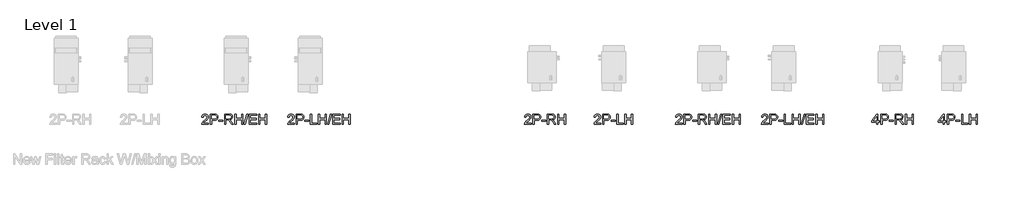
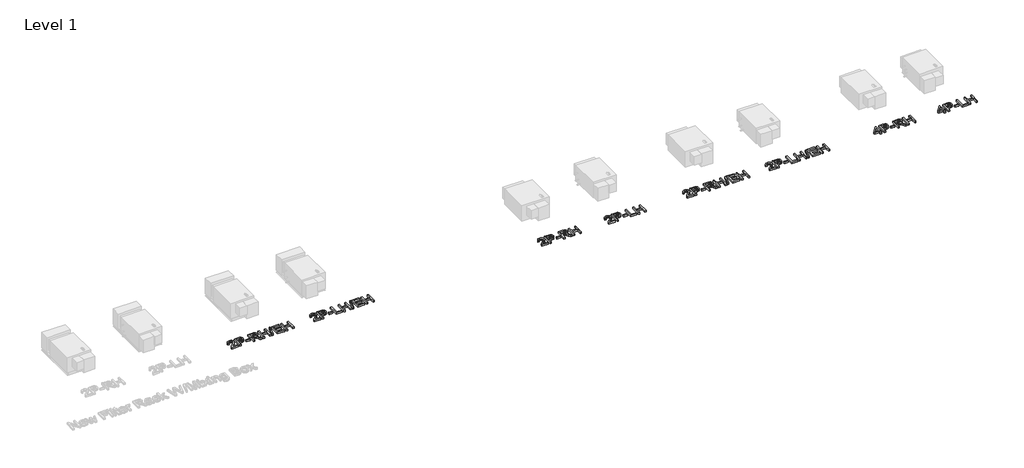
# One storey, part 3 of 3: 8 proxies.
"""IFC4 building model written with IfcOpenShell, lengths in millimetres."""

from ifc_helpers import new_model, si_unit, frame, origin, place, context, project, spatial, polyline, outline, extrude, element, save

model = new_model("IFC4")

# Units and contexts
model_context = context("Model", 3, world=origin())
ifc_project = project(units=[si_unit("LENGTHUNIT", "METRE", prefix="MILLI")], contexts=[model_context])

# Site, building, storey
site = spatial("IfcSite", under=ifc_project)
building = spatial("IfcBuilding", under=site)
storey = spatial("IfcBuildingStorey", under=building, Name="Level 1", Elevation=0.0)

# Proxies
placement = place(None, origin())
element("IfcBuildingElementProxy", 1, Name="24\" Arial", ObjectType="24\" Arial", at=placement, inside=storey, context=model_context, shape_type="SweptSolid", body=[
    extrude(outline(polyline([(-9743.7056134, -12938.2494606), (-9743.7056134, -12866.866548), (-9881.7125779, -12866.866548), (-9881.7125779, -12828.7956612), (-9734.1878917, -12638.4412274), (-9705.6347266, -12638.4412274), (-9705.6347266, -12828.7956612), (-9667.5638398, -12828.7956612), (-9667.5638398, -12866.866548), (-9705.6347266, -12866.866548), (-9705.6347266, -12938.2494606), (-9743.7056134, -12938.2494606)]), holes=[polyline([(-9743.7056134, -12828.7956612), (-9743.7056134, -12711.1625697), (-9834.8675414, -12828.7956612), (-9743.7056134, -12828.7956612)])]), frame((0.0, 0.0, -529.6157415), z_axis=(0.0, 0.0, 1.0), x_axis=(1.0, 0.0, 0.0)), (0.0, 0.0, 1.0), 50.8),
    extrude(outline(polyline([(-9619.9752314, -12938.2494606), (-9619.9752314, -12633.6823666), (-9507.1010007, -12633.6823666), (-9461.5943939, -12636.5822974), (-9441.3041728, -12642.0010784), (-9424.6016866, -12650.8217013), (-9411.1523279, -12663.4438361), (-9400.6214893, -12680.2671528), (-9393.8178055, -12700.1112307), (-9391.5499108, -12721.7956494), (-9393.0812044, -12740.491838), (-9397.6750853, -12757.691588), (-9405.3315533, -12773.3948994), (-9416.0506085, -12787.601772), (-9430.7663632, -12799.3780937), (-9450.4129298, -12807.789752), (-9474.9903083, -12812.836747), (-9504.4984987, -12814.5190787), (-9581.9043446, -12814.5190787), (-9581.9043446, -12938.2494606), (-9619.9752314, -12938.2494606)]), holes=[polyline([(-9581.9043446, -12776.4481919), (-9502.2677827, -12776.4481919), (-9468.5096136, -12772.9534035), (-9446.2024534, -12762.4690382), (-9433.7662115, -12745.6457215), (-9429.6207976, -12723.134079), (-9432.0652906, -12706.0319228), (-9439.3987695, -12691.6066259), (-9450.7103587, -12680.7504746), (-9465.0891823, -12674.3557554), (-9503.1600691, -12671.7532533), (-9581.9043446, -12671.7532533), (-9581.9043446, -12776.4481919)])]), frame((0.0, 0.0, -529.6157415), z_axis=(0.0, 0.0, 1.0), x_axis=(1.0, 0.0, 0.0)), (0.0, 0.0, 1.0), 50.8),
    extrude(outline(polyline([(-9362.9967458, -12847.8311046), (-9362.9967458, -12809.7602178), (-9244.0252247, -12809.7602178), (-9244.0252247, -12847.8311046), (-9362.9967458, -12847.8311046)])), frame((0.0, 0.0, -529.6157415), z_axis=(0.0, 0.0, 1.0), x_axis=(1.0, 0.0, 0.0)), (0.0, 0.0, 1.0), 50.8),
    extrude(outline(polyline([(-9196.4366162, -12938.2494606), (-9196.4366162, -12633.6823666), (-9158.3657294, -12633.6823666), (-9158.3657294, -12900.1785739), (-9006.0821824, -12900.1785739), (-9006.0821824, -12938.2494606), (-9196.4366162, -12938.2494606)])), frame((0.0, 0.0, -529.6157415), z_axis=(0.0, 0.0, 1.0), x_axis=(1.0, 0.0, 0.0)), (0.0, 0.0, 1.0), 50.8),
    extrude(outline(polyline([(-8963.2524348, -12938.2494606), (-8963.2524348, -12633.6823666), (-8925.1815481, -12633.6823666), (-8925.1815481, -12757.4127485), (-8763.3802793, -12757.4127485), (-8763.3802793, -12633.6823666), (-8725.3093926, -12633.6823666), (-8725.3093926, -12938.2494606), (-8763.3802793, -12938.2494606), (-8763.3802793, -12795.4836353), (-8925.1815481, -12795.4836353), (-8925.1815481, -12938.2494606), (-8963.2524348, -12938.2494606)])), frame((0.0, 0.0, -529.6157415), z_axis=(0.0, 0.0, 1.0), x_axis=(1.0, 0.0, 0.0)), (0.0, 0.0, 1.0), 50.8),
])
element("IfcBuildingElementProxy", 2, Name="24\" Arial", ObjectType="24\" Arial", at=placement, inside=storey, context=model_context, shape_type="SweptSolid", body=[
    extrude(outline(polyline([(-11711.222226, -12938.2494606), (-11711.222226, -12866.866548), (-11849.2291905, -12866.866548), (-11849.2291905, -12828.7956612), (-11701.7045043, -12638.4412274), (-11673.1513392, -12638.4412274), (-11673.1513392, -12828.7956612), (-11635.0804525, -12828.7956612), (-11635.0804525, -12866.866548), (-11673.1513392, -12866.866548), (-11673.1513392, -12938.2494606), (-11711.222226, -12938.2494606)]), holes=[polyline([(-11711.222226, -12828.7956612), (-11711.222226, -12711.1625697), (-11802.384154, -12828.7956612), (-11711.222226, -12828.7956612)])]), frame((0.0, 0.0, -529.6157415), z_axis=(0.0, 0.0, 1.0), x_axis=(1.0, 0.0, 0.0)), (0.0, 0.0, 1.0), 50.8),
    extrude(outline(polyline([(-11587.491844, -12938.2494606), (-11587.491844, -12633.6823666), (-11474.6176134, -12633.6823666), (-11429.1110065, -12636.5822974), (-11408.8207854, -12642.0010784), (-11392.1182992, -12650.8217013), (-11378.6689405, -12663.4438361), (-11368.138102, -12680.2671528), (-11361.3344181, -12700.1112307), (-11359.0665235, -12721.7956494), (-11360.5978171, -12740.491838), (-11365.1916979, -12757.691588), (-11372.8481659, -12773.3948994), (-11383.5672211, -12787.601772), (-11398.2829759, -12799.3780937), (-11417.9295425, -12807.789752), (-11442.506921, -12812.836747), (-11472.0151113, -12814.5190787), (-11549.4209573, -12814.5190787), (-11549.4209573, -12938.2494606), (-11587.491844, -12938.2494606)]), holes=[polyline([(-11549.4209573, -12776.4481919), (-11469.7843953, -12776.4481919), (-11436.0262262, -12772.9534035), (-11413.719066, -12762.4690382), (-11401.2828242, -12745.6457215), (-11397.1374102, -12723.134079), (-11399.5819032, -12706.0319228), (-11406.9153821, -12691.6066259), (-11418.2269713, -12680.7504746), (-11432.605795, -12674.3557554), (-11470.6766817, -12671.7532533), (-11549.4209573, -12671.7532533), (-11549.4209573, -12776.4481919)])]), frame((0.0, 0.0, -529.6157415), z_axis=(0.0, 0.0, 1.0), x_axis=(1.0, 0.0, 0.0)), (0.0, 0.0, 1.0), 50.8),
    extrude(outline(polyline([(-11330.5133584, -12847.8311046), (-11330.5133584, -12809.7602178), (-11211.5418373, -12809.7602178), (-11211.5418373, -12847.8311046), (-11330.5133584, -12847.8311046)])), frame((0.0, 0.0, -529.6157415), z_axis=(0.0, 0.0, 1.0), x_axis=(1.0, 0.0, 0.0)), (0.0, 0.0, 1.0), 50.8),
    extrude(outline(polyline([(-11163.9532288, -12938.2494606), (-11163.9532288, -12633.6823666), (-11032.7127696, -12633.6823666), (-10997.4395725, -12635.7364842), (-10971.7770436, -12641.8988372), (-10953.0204397, -12653.275489), (-10938.4650177, -12670.9725027), (-10929.1238944, -12692.9171716), (-10926.0101866, -12717.0367886), (-10931.1687174, -12747.039919), (-10946.6443098, -12771.9124027), (-10958.3671872, -12782.0482186), (-10972.9016963, -12790.1485061), (-11010.4056094, -12800.2424961), (-10988.767664, -12816.5267231), (-10957.9094257, -12855.7129679), (-10907.1234576, -12938.2494606), (-10951.365992, -12938.2494606), (-10990.99838, -12875.1201972), (-11019.6259023, -12833.3314504), (-11039.7395251, -12813.5896137), (-11057.8455034, -12806.3397866), (-11079.929592, -12805.001357), (-11125.8823421, -12805.001357), (-11125.8823421, -12938.2494606), (-11163.9532288, -12938.2494606)]), holes=[polyline([(-11125.8823421, -12766.9304702), (-11040.6689901, -12766.9304702), (-11016.1961764, -12765.582746), (-10997.2072063, -12761.5395732), (-10982.9120344, -12754.531407), (-10972.5206156, -12744.2887026), (-10966.1909589, -12731.898934), (-10964.0810734, -12718.4495754), (-10968.1056568, -12699.8788645), (-10980.1794073, -12684.9144779), (-11000.9529503, -12675.0435595), (-11031.0769112, -12671.7532533), (-11125.8823421, -12671.7532533), (-11125.8823421, -12766.9304702)])]), frame((0.0, 0.0, -529.6157415), z_axis=(0.0, 0.0, 1.0), x_axis=(1.0, 0.0, 0.0)), (0.0, 0.0, 1.0), 50.8),
    extrude(outline(polyline([(-10859.3861348, -12938.2494606), (-10859.3861348, -12633.6823666), (-10821.315248, -12633.6823666), (-10821.315248, -12757.4127485), (-10659.5139793, -12757.4127485), (-10659.5139793, -12633.6823666), (-10621.4430925, -12633.6823666), (-10621.4430925, -12938.2494606), (-10659.5139793, -12938.2494606), (-10659.5139793, -12795.4836353), (-10821.315248, -12795.4836353), (-10821.315248, -12938.2494606), (-10859.3861348, -12938.2494606)])), frame((0.0, 0.0, -529.6157415), z_axis=(0.0, 0.0, 1.0), x_axis=(1.0, 0.0, 0.0)), (0.0, 0.0, 1.0), 50.8),
])
element("IfcBuildingElementProxy", 3, Name="24\" Arial", ObjectType="24\" Arial", at=placement, inside=storey, context=model_context, shape_type="SweptSolid", body=[
    extrude(outline(polyline([(-14920.7636613, -12900.1785739), (-14920.7636613, -12938.2494606), (-15120.6358167, -12938.2494606), (-15116.5461707, -12912.0013688), (-15107.1585741, -12891.488076), (-15093.4210813, -12871.5882302), (-15073.5491194, -12850.7589194), (-15045.7581156, -12827.4572316), (-15004.6757622, -12790.9664353), (-14980.0263502, -12764.0305394), (-14967.7016442, -12742.1695224), (-14963.5934089, -12720.903363), (-14967.4692779, -12701.8400357), (-14979.0968852, -12685.9926573), (-14996.9704973, -12675.3131043), (-15019.584381, -12671.7532533), (-15043.332212, -12675.2294525), (-15061.7820924, -12685.6580499), (-15073.6885391, -12702.2211163), (-15077.8060691, -12724.1007226), (-15115.8769559, -12719.3418618), (-15112.6029154, -12699.6883242), (-15106.6473684, -12682.5164581), (-15098.0103148, -12667.8262637), (-15086.6917546, -12655.6177408), (-15072.9519381, -12646.0210146), (-15057.0511155, -12639.1662101), (-15018.7664518, -12633.6823666), (-14998.3623712, -12635.2066892), (-14980.2029486, -12639.779657), (-14964.2881839, -12647.4012701), (-14950.6180773, -12658.0715284), (-14939.6387719, -12671.0003867), (-14931.7964109, -12685.3977997), (-14927.0909943, -12701.2637674), (-14925.5225221, -12718.5982898), (-14927.2141484, -12736.8065093), (-14932.2890274, -12754.6987107), (-14941.2955433, -12772.8976356), (-14954.7820806, -12792.0260255), (-14976.2806062, -12814.8629807), (-15009.3230873, -12844.1876018), (-15053.1194785, -12880.8085231), (-15070.2959919, -12900.1785739), (-14920.7636613, -12900.1785739)])), frame((0.0, 0.0, -529.6157415), z_axis=(0.0, 0.0, 1.0), x_axis=(1.0, 0.0, 0.0)), (0.0, 0.0, 1.0), 50.8),
    extrude(outline(polyline([(-14868.416192, -12938.2494606), (-14868.416192, -12633.6823666), (-14755.5419613, -12633.6823666), (-14710.0353545, -12636.5822974), (-14689.7451333, -12642.0010784), (-14673.0426471, -12650.8217013), (-14659.5932884, -12663.4438361), (-14649.0624499, -12680.2671528), (-14642.258766, -12700.1112307), (-14639.9908714, -12721.7956494), (-14641.522165, -12740.491838), (-14646.1160458, -12757.691588), (-14653.7725138, -12773.3948994), (-14664.491569, -12787.601772), (-14679.2073238, -12799.3780937), (-14698.8538904, -12807.789752), (-14723.4312689, -12812.836747), (-14752.9394593, -12814.5190787), (-14830.3453052, -12814.5190787), (-14830.3453052, -12938.2494606), (-14868.416192, -12938.2494606)]), holes=[polyline([(-14830.3453052, -12776.4481919), (-14750.7087433, -12776.4481919), (-14716.9505741, -12772.9534035), (-14694.6434139, -12762.4690382), (-14682.2071721, -12745.6457215), (-14678.0617582, -12723.134079), (-14680.5062511, -12706.0319228), (-14687.8397301, -12691.6066259), (-14699.1513192, -12680.7504746), (-14713.5301429, -12674.3557554), (-14751.6010297, -12671.7532533), (-14830.3453052, -12671.7532533), (-14830.3453052, -12776.4481919)])]), frame((0.0, 0.0, -529.6157415), z_axis=(0.0, 0.0, 1.0), x_axis=(1.0, 0.0, 0.0)), (0.0, 0.0, 1.0), 50.8),
    extrude(outline(polyline([(-14611.4377063, -12847.8311046), (-14611.4377063, -12809.7602178), (-14492.4661852, -12809.7602178), (-14492.4661852, -12847.8311046), (-14611.4377063, -12847.8311046)])), frame((0.0, 0.0, -529.6157415), z_axis=(0.0, 0.0, 1.0), x_axis=(1.0, 0.0, 0.0)), (0.0, 0.0, 1.0), 50.8),
    extrude(outline(polyline([(-14444.8775768, -12938.2494606), (-14444.8775768, -12633.6823666), (-14406.80669, -12633.6823666), (-14406.80669, -12900.1785739), (-14254.523143, -12900.1785739), (-14254.523143, -12938.2494606), (-14444.8775768, -12938.2494606)])), frame((0.0, 0.0, -529.6157415), z_axis=(0.0, 0.0, 1.0), x_axis=(1.0, 0.0, 0.0)), (0.0, 0.0, 1.0), 50.8),
    extrude(outline(polyline([(-14211.6933954, -12938.2494606), (-14211.6933954, -12633.6823666), (-14173.6225086, -12633.6823666), (-14173.6225086, -12757.4127485), (-14011.8212399, -12757.4127485), (-14011.8212399, -12633.6823666), (-13973.7503531, -12633.6823666), (-13973.7503531, -12938.2494606), (-14011.8212399, -12938.2494606), (-14011.8212399, -12795.4836353), (-14173.6225086, -12795.4836353), (-14173.6225086, -12938.2494606), (-14211.6933954, -12938.2494606)])), frame((0.0, 0.0, -529.6157415), z_axis=(0.0, 0.0, 1.0), x_axis=(1.0, 0.0, 0.0)), (0.0, 0.0, 1.0), 50.8),
    extrude(outline(polyline([(-13940.4383272, -12938.2494606), (-13854.778832, -12633.6823666), (-13820.4258053, -12633.6823666), (-13906.0853005, -12938.2494606), (-13940.4383272, -12938.2494606)])), frame((0.0, 0.0, -529.6157415), z_axis=(0.0, 0.0, 1.0), x_axis=(1.0, 0.0, 0.0)), (0.0, 0.0, 1.0), 50.8),
    extrude(outline(polyline([(-13788.1547802, -12938.2494606), (-13788.1547802, -12633.6823666), (-13569.2471813, -12633.6823666), (-13569.2471813, -12671.7532533), (-13750.0838934, -12671.7532533), (-13750.0838934, -12762.1716094), (-13578.764903, -12762.1716094), (-13578.764903, -12800.2424961), (-13750.0838934, -12800.2424961), (-13750.0838934, -12900.1785739), (-13564.4883205, -12900.1785739), (-13564.4883205, -12938.2494606), (-13788.1547802, -12938.2494606)])), frame((0.0, 0.0, -529.6157415), z_axis=(0.0, 0.0, 1.0), x_axis=(1.0, 0.0, 0.0)), (0.0, 0.0, 1.0), 50.8),
    extrude(outline(polyline([(-13507.3819903, -12938.2494606), (-13507.3819903, -12633.6823666), (-13469.3111036, -12633.6823666), (-13469.3111036, -12757.4127485), (-13307.5098349, -12757.4127485), (-13307.5098349, -12633.6823666), (-13269.4389481, -12633.6823666), (-13269.4389481, -12938.2494606), (-13307.5098349, -12938.2494606), (-13307.5098349, -12795.4836353), (-13469.3111036, -12795.4836353), (-13469.3111036, -12938.2494606), (-13507.3819903, -12938.2494606)])), frame((0.0, 0.0, -529.6157415), z_axis=(0.0, 0.0, 1.0), x_axis=(1.0, 0.0, 0.0)), (0.0, 0.0, 1.0), 50.8),
])
element("IfcBuildingElementProxy", 4, Name="24\" Arial", ObjectType="24\" Arial", at=placement, inside=storey, context=model_context, shape_type="SweptSolid", body=[
    extrude(outline(polyline([(-17463.9537824, -12900.1785739), (-17463.9537824, -12938.2494606), (-17663.8259379, -12938.2494606), (-17659.7362918, -12912.0013688), (-17650.3486952, -12891.488076), (-17636.6112024, -12871.5882302), (-17616.7392405, -12850.7589194), (-17588.9482368, -12827.4572316), (-17547.8658834, -12790.9664353), (-17523.2164713, -12764.0305394), (-17510.8917653, -12742.1695224), (-17506.78353, -12720.903363), (-17510.6593991, -12701.8400357), (-17522.2870063, -12685.9926573), (-17540.1606185, -12675.3131043), (-17562.7745021, -12671.7532533), (-17586.5223331, -12675.2294525), (-17604.9722135, -12685.6580499), (-17616.8786603, -12702.2211163), (-17620.9961903, -12724.1007226), (-17659.067077, -12719.3418618), (-17655.7930365, -12699.6883242), (-17649.8374895, -12682.5164581), (-17641.2004359, -12667.8262637), (-17629.8818758, -12655.6177408), (-17616.1420593, -12646.0210146), (-17600.2412366, -12639.1662101), (-17561.9565729, -12633.6823666), (-17541.5524923, -12635.2066892), (-17523.3930697, -12639.779657), (-17507.4783051, -12647.4012701), (-17493.8081985, -12658.0715284), (-17482.8288931, -12671.0003867), (-17474.986532, -12685.3977997), (-17470.2811154, -12701.2637674), (-17468.7126432, -12718.5982898), (-17470.4042695, -12736.8065093), (-17475.4791485, -12754.6987107), (-17484.4856644, -12772.8976356), (-17497.9722017, -12792.0260255), (-17519.4707274, -12814.8629807), (-17552.5132084, -12844.1876018), (-17596.3095996, -12880.8085231), (-17613.486113, -12900.1785739), (-17463.9537824, -12900.1785739)])), frame((0.0, 0.0, -529.6157415), z_axis=(0.0, 0.0, 1.0), x_axis=(1.0, 0.0, 0.0)), (0.0, 0.0, 1.0), 50.8),
    extrude(outline(polyline([(-17411.6063131, -12938.2494606), (-17411.6063131, -12633.6823666), (-17298.7320824, -12633.6823666), (-17253.2254756, -12636.5822974), (-17232.9352545, -12642.0010784), (-17216.2327683, -12650.8217013), (-17202.7834096, -12663.4438361), (-17192.252571, -12680.2671528), (-17185.4488872, -12700.1112307), (-17183.1809925, -12721.7956494), (-17184.7122861, -12740.491838), (-17189.306167, -12757.691588), (-17196.962635, -12773.3948994), (-17207.6816902, -12787.601772), (-17222.3974449, -12799.3780937), (-17242.0440115, -12807.789752), (-17266.62139, -12812.836747), (-17296.1295804, -12814.5190787), (-17373.5354263, -12814.5190787), (-17373.5354263, -12938.2494606), (-17411.6063131, -12938.2494606)]), holes=[polyline([(-17373.5354263, -12776.4481919), (-17293.8988644, -12776.4481919), (-17260.1406953, -12772.9534035), (-17237.8335351, -12762.4690382), (-17225.3972932, -12745.6457215), (-17221.2518793, -12723.134079), (-17223.6963723, -12706.0319228), (-17231.0298512, -12691.6066259), (-17242.3414404, -12680.7504746), (-17256.720264, -12674.3557554), (-17294.7911508, -12671.7532533), (-17373.5354263, -12671.7532533), (-17373.5354263, -12776.4481919)])]), frame((0.0, 0.0, -529.6157415), z_axis=(0.0, 0.0, 1.0), x_axis=(1.0, 0.0, 0.0)), (0.0, 0.0, 1.0), 50.8),
    extrude(outline(polyline([(-17154.6278275, -12847.8311046), (-17154.6278275, -12809.7602178), (-17035.6563064, -12809.7602178), (-17035.6563064, -12847.8311046), (-17154.6278275, -12847.8311046)])), frame((0.0, 0.0, -529.6157415), z_axis=(0.0, 0.0, 1.0), x_axis=(1.0, 0.0, 0.0)), (0.0, 0.0, 1.0), 50.8),
    extrude(outline(polyline([(-16988.0676979, -12938.2494606), (-16988.0676979, -12633.6823666), (-16856.8272387, -12633.6823666), (-16821.5540416, -12635.7364842), (-16795.8915127, -12641.8988372), (-16777.1349088, -12653.275489), (-16762.5794868, -12670.9725027), (-16753.2383634, -12692.9171716), (-16750.1246557, -12717.0367886), (-16755.2831865, -12747.039919), (-16770.7587789, -12771.9124027), (-16782.4816563, -12782.0482186), (-16797.0161654, -12790.1485061), (-16834.5200785, -12800.2424961), (-16812.8821331, -12816.5267231), (-16782.0238948, -12855.7129679), (-16731.2379267, -12938.2494606), (-16775.4804611, -12938.2494606), (-16815.1128491, -12875.1201972), (-16843.7403713, -12833.3314504), (-16863.8539941, -12813.5896137), (-16881.9599725, -12806.3397866), (-16904.0440611, -12805.001357), (-16949.9968111, -12805.001357), (-16949.9968111, -12938.2494606), (-16988.0676979, -12938.2494606)]), holes=[polyline([(-16949.9968111, -12766.9304702), (-16864.7834591, -12766.9304702), (-16840.3106455, -12765.582746), (-16821.3216753, -12761.5395732), (-16807.0265035, -12754.531407), (-16796.6350847, -12744.2887026), (-16790.305428, -12731.898934), (-16788.1955424, -12718.4495754), (-16792.2201259, -12699.8788645), (-16804.2938764, -12684.9144779), (-16825.0674193, -12675.0435595), (-16855.1913803, -12671.7532533), (-16949.9968111, -12671.7532533), (-16949.9968111, -12766.9304702)])]), frame((0.0, 0.0, -529.6157415), z_axis=(0.0, 0.0, 1.0), x_axis=(1.0, 0.0, 0.0)), (0.0, 0.0, 1.0), 50.8),
    extrude(outline(polyline([(-16683.5006038, -12938.2494606), (-16683.5006038, -12633.6823666), (-16645.4297171, -12633.6823666), (-16645.4297171, -12757.4127485), (-16483.6284484, -12757.4127485), (-16483.6284484, -12633.6823666), (-16445.5575616, -12633.6823666), (-16445.5575616, -12938.2494606), (-16483.6284484, -12938.2494606), (-16483.6284484, -12795.4836353), (-16645.4297171, -12795.4836353), (-16645.4297171, -12938.2494606), (-16683.5006038, -12938.2494606)])), frame((0.0, 0.0, -529.6157415), z_axis=(0.0, 0.0, 1.0), x_axis=(1.0, 0.0, 0.0)), (0.0, 0.0, 1.0), 50.8),
    extrude(outline(polyline([(-16412.2455357, -12938.2494606), (-16326.5860405, -12633.6823666), (-16292.2330138, -12633.6823666), (-16377.892509, -12938.2494606), (-16412.2455357, -12938.2494606)])), frame((0.0, 0.0, -529.6157415), z_axis=(0.0, 0.0, 1.0), x_axis=(1.0, 0.0, 0.0)), (0.0, 0.0, 1.0), 50.8),
    extrude(outline(polyline([(-16259.9619886, -12938.2494606), (-16259.9619886, -12633.6823666), (-16041.0543898, -12633.6823666), (-16041.0543898, -12671.7532533), (-16221.8911019, -12671.7532533), (-16221.8911019, -12762.1716094), (-16050.5721115, -12762.1716094), (-16050.5721115, -12800.2424961), (-16221.8911019, -12800.2424961), (-16221.8911019, -12900.1785739), (-16036.2955289, -12900.1785739), (-16036.2955289, -12938.2494606), (-16259.9619886, -12938.2494606)])), frame((0.0, 0.0, -529.6157415), z_axis=(0.0, 0.0, 1.0), x_axis=(1.0, 0.0, 0.0)), (0.0, 0.0, 1.0), 50.8),
    extrude(outline(polyline([(-15979.1891988, -12938.2494606), (-15979.1891988, -12633.6823666), (-15941.118312, -12633.6823666), (-15941.118312, -12757.4127485), (-15779.3170433, -12757.4127485), (-15779.3170433, -12633.6823666), (-15741.2461566, -12633.6823666), (-15741.2461566, -12938.2494606), (-15779.3170433, -12938.2494606), (-15779.3170433, -12795.4836353), (-15941.118312, -12795.4836353), (-15941.118312, -12938.2494606), (-15979.1891988, -12938.2494606)])), frame((0.0, 0.0, -529.6157415), z_axis=(0.0, 0.0, 1.0), x_axis=(1.0, 0.0, 0.0)), (0.0, 0.0, 1.0), 50.8),
])
element("IfcBuildingElementProxy", 5, Name="24\" Arial", ObjectType="24\" Arial", at=placement, inside=storey, context=model_context, shape_type="SweptSolid", body=[
    extrude(outline(polyline([(-19873.7636613, -12900.1785739), (-19873.7636613, -12938.2494606), (-20073.6358167, -12938.2494606), (-20069.5461707, -12912.0013688), (-20060.1585741, -12891.488076), (-20046.4210813, -12871.5882302), (-20026.5491194, -12850.7589194), (-19998.7581156, -12827.4572316), (-19957.6757622, -12790.9664353), (-19933.0263502, -12764.0305394), (-19920.7016442, -12742.1695224), (-19916.5934089, -12720.903363), (-19920.4692779, -12701.8400357), (-19932.0968852, -12685.9926573), (-19949.9704973, -12675.3131043), (-19972.584381, -12671.7532533), (-19996.332212, -12675.2294525), (-20014.7820924, -12685.6580499), (-20026.6885391, -12702.2211163), (-20030.8060691, -12724.1007226), (-20068.8769559, -12719.3418618), (-20065.6029154, -12699.6883242), (-20059.6473684, -12682.5164581), (-20051.0103148, -12667.8262637), (-20039.6917546, -12655.6177408), (-20025.9519381, -12646.0210146), (-20010.0511155, -12639.1662101), (-19971.7664518, -12633.6823666), (-19951.3623712, -12635.2066892), (-19933.2029486, -12639.779657), (-19917.2881839, -12647.4012701), (-19903.6180773, -12658.0715284), (-19892.6387719, -12671.0003867), (-19884.7964109, -12685.3977997), (-19880.0909943, -12701.2637674), (-19878.5225221, -12718.5982898), (-19880.2141484, -12736.8065093), (-19885.2890274, -12754.6987107), (-19894.2955433, -12772.8976356), (-19907.7820806, -12792.0260255), (-19929.2806062, -12814.8629807), (-19962.3230873, -12844.1876018), (-20006.1194785, -12880.8085231), (-20023.2959919, -12900.1785739), (-19873.7636613, -12900.1785739)])), frame((0.0, 0.0, -529.6157415), z_axis=(0.0, 0.0, 1.0), x_axis=(1.0, 0.0, 0.0)), (0.0, 0.0, 1.0), 50.8),
    extrude(outline(polyline([(-19821.416192, -12938.2494606), (-19821.416192, -12633.6823666), (-19708.5419613, -12633.6823666), (-19663.0353545, -12636.5822974), (-19642.7451333, -12642.0010784), (-19626.0426471, -12650.8217013), (-19612.5932884, -12663.4438361), (-19602.0624499, -12680.2671528), (-19595.258766, -12700.1112307), (-19592.9908714, -12721.7956494), (-19594.522165, -12740.491838), (-19599.1160458, -12757.691588), (-19606.7725138, -12773.3948994), (-19617.491569, -12787.601772), (-19632.2073238, -12799.3780937), (-19651.8538904, -12807.789752), (-19676.4312689, -12812.836747), (-19705.9394593, -12814.5190787), (-19783.3453052, -12814.5190787), (-19783.3453052, -12938.2494606), (-19821.416192, -12938.2494606)]), holes=[polyline([(-19783.3453052, -12776.4481919), (-19703.7087433, -12776.4481919), (-19669.9505741, -12772.9534035), (-19647.6434139, -12762.4690382), (-19635.2071721, -12745.6457215), (-19631.0617582, -12723.134079), (-19633.5062511, -12706.0319228), (-19640.8397301, -12691.6066259), (-19652.1513192, -12680.7504746), (-19666.5301429, -12674.3557554), (-19704.6010297, -12671.7532533), (-19783.3453052, -12671.7532533), (-19783.3453052, -12776.4481919)])]), frame((0.0, 0.0, -529.6157415), z_axis=(0.0, 0.0, 1.0), x_axis=(1.0, 0.0, 0.0)), (0.0, 0.0, 1.0), 50.8),
    extrude(outline(polyline([(-19564.4377063, -12847.8311046), (-19564.4377063, -12809.7602178), (-19445.4661852, -12809.7602178), (-19445.4661852, -12847.8311046), (-19564.4377063, -12847.8311046)])), frame((0.0, 0.0, -529.6157415), z_axis=(0.0, 0.0, 1.0), x_axis=(1.0, 0.0, 0.0)), (0.0, 0.0, 1.0), 50.8),
    extrude(outline(polyline([(-19397.8775768, -12938.2494606), (-19397.8775768, -12633.6823666), (-19359.80669, -12633.6823666), (-19359.80669, -12900.1785739), (-19207.523143, -12900.1785739), (-19207.523143, -12938.2494606), (-19397.8775768, -12938.2494606)])), frame((0.0, 0.0, -529.6157415), z_axis=(0.0, 0.0, 1.0), x_axis=(1.0, 0.0, 0.0)), (0.0, 0.0, 1.0), 50.8),
    extrude(outline(polyline([(-19164.6933954, -12938.2494606), (-19164.6933954, -12633.6823666), (-19126.6225086, -12633.6823666), (-19126.6225086, -12757.4127485), (-18964.8212399, -12757.4127485), (-18964.8212399, -12633.6823666), (-18926.7503531, -12633.6823666), (-18926.7503531, -12938.2494606), (-18964.8212399, -12938.2494606), (-18964.8212399, -12795.4836353), (-19126.6225086, -12795.4836353), (-19126.6225086, -12938.2494606), (-19164.6933954, -12938.2494606)])), frame((0.0, 0.0, -529.6157415), z_axis=(0.0, 0.0, 1.0), x_axis=(1.0, 0.0, 0.0)), (0.0, 0.0, 1.0), 50.8),
])
element("IfcBuildingElementProxy", 6, Name="24\" Arial", ObjectType="24\" Arial", at=placement, inside=storey, context=model_context, shape_type="SweptSolid", body=[
    extrude(outline(polyline([(-21934.3537824, -12900.1785739), (-21934.3537824, -12938.2494606), (-22134.2259379, -12938.2494606), (-22130.1362918, -12912.0013688), (-22120.7486952, -12891.488076), (-22107.0112024, -12871.5882302), (-22087.1392405, -12850.7589194), (-22059.3482368, -12827.4572316), (-22018.2658834, -12790.9664353), (-21993.6164713, -12764.0305394), (-21981.2917653, -12742.1695224), (-21977.18353, -12720.903363), (-21981.0593991, -12701.8400357), (-21992.6870063, -12685.9926573), (-22010.5606185, -12675.3131043), (-22033.1745021, -12671.7532533), (-22056.9223331, -12675.2294525), (-22075.3722135, -12685.6580499), (-22087.2786603, -12702.2211163), (-22091.3961903, -12724.1007226), (-22129.467077, -12719.3418618), (-22126.1930365, -12699.6883242), (-22120.2374895, -12682.5164581), (-22111.6004359, -12667.8262637), (-22100.2818758, -12655.6177408), (-22086.5420593, -12646.0210146), (-22070.6412366, -12639.1662101), (-22032.3565729, -12633.6823666), (-22011.9524923, -12635.2066892), (-21993.7930697, -12639.779657), (-21977.8783051, -12647.4012701), (-21964.2081985, -12658.0715284), (-21953.2288931, -12671.0003867), (-21945.386532, -12685.3977997), (-21940.6811154, -12701.2637674), (-21939.1126432, -12718.5982898), (-21940.8042695, -12736.8065093), (-21945.8791485, -12754.6987107), (-21954.8856644, -12772.8976356), (-21968.3722017, -12792.0260255), (-21989.8707274, -12814.8629807), (-22022.9132084, -12844.1876018), (-22066.7095996, -12880.8085231), (-22083.886113, -12900.1785739), (-21934.3537824, -12900.1785739)])), frame((0.0, 0.0, -529.6157415), z_axis=(0.0, 0.0, 1.0), x_axis=(1.0, 0.0, 0.0)), (0.0, 0.0, 1.0), 50.8),
    extrude(outline(polyline([(-21882.0063131, -12938.2494606), (-21882.0063131, -12633.6823666), (-21769.1320824, -12633.6823666), (-21723.6254756, -12636.5822974), (-21703.3352545, -12642.0010784), (-21686.6327683, -12650.8217013), (-21673.1834096, -12663.4438361), (-21662.652571, -12680.2671528), (-21655.8488872, -12700.1112307), (-21653.5809925, -12721.7956494), (-21655.1122861, -12740.491838), (-21659.706167, -12757.691588), (-21667.362635, -12773.3948994), (-21678.0816902, -12787.601772), (-21692.7974449, -12799.3780937), (-21712.4440115, -12807.789752), (-21737.02139, -12812.836747), (-21766.5295804, -12814.5190787), (-21843.9354263, -12814.5190787), (-21843.9354263, -12938.2494606), (-21882.0063131, -12938.2494606)]), holes=[polyline([(-21843.9354263, -12776.4481919), (-21764.2988644, -12776.4481919), (-21730.5406953, -12772.9534035), (-21708.2335351, -12762.4690382), (-21695.7972932, -12745.6457215), (-21691.6518793, -12723.134079), (-21694.0963723, -12706.0319228), (-21701.4298512, -12691.6066259), (-21712.7414404, -12680.7504746), (-21727.120264, -12674.3557554), (-21765.1911508, -12671.7532533), (-21843.9354263, -12671.7532533), (-21843.9354263, -12776.4481919)])]), frame((0.0, 0.0, -529.6157415), z_axis=(0.0, 0.0, 1.0), x_axis=(1.0, 0.0, 0.0)), (0.0, 0.0, 1.0), 50.8),
    extrude(outline(polyline([(-21625.0278275, -12847.8311046), (-21625.0278275, -12809.7602178), (-21506.0563064, -12809.7602178), (-21506.0563064, -12847.8311046), (-21625.0278275, -12847.8311046)])), frame((0.0, 0.0, -529.6157415), z_axis=(0.0, 0.0, 1.0), x_axis=(1.0, 0.0, 0.0)), (0.0, 0.0, 1.0), 50.8),
    extrude(outline(polyline([(-21458.4676979, -12938.2494606), (-21458.4676979, -12633.6823666), (-21327.2272387, -12633.6823666), (-21291.9540416, -12635.7364842), (-21266.2915127, -12641.8988372), (-21247.5349088, -12653.275489), (-21232.9794868, -12670.9725027), (-21223.6383634, -12692.9171716), (-21220.5246557, -12717.0367886), (-21225.6831865, -12747.039919), (-21241.1587789, -12771.9124027), (-21252.8816563, -12782.0482186), (-21267.4161654, -12790.1485061), (-21304.9200785, -12800.2424961), (-21283.2821331, -12816.5267231), (-21252.4238948, -12855.7129679), (-21201.6379267, -12938.2494606), (-21245.8804611, -12938.2494606), (-21285.5128491, -12875.1201972), (-21314.1403713, -12833.3314504), (-21334.2539941, -12813.5896137), (-21352.3599725, -12806.3397866), (-21374.4440611, -12805.001357), (-21420.3968111, -12805.001357), (-21420.3968111, -12938.2494606), (-21458.4676979, -12938.2494606)]), holes=[polyline([(-21420.3968111, -12766.9304702), (-21335.1834591, -12766.9304702), (-21310.7106455, -12765.582746), (-21291.7216753, -12761.5395732), (-21277.4265035, -12754.531407), (-21267.0350847, -12744.2887026), (-21260.705428, -12731.898934), (-21258.5955424, -12718.4495754), (-21262.6201259, -12699.8788645), (-21274.6938764, -12684.9144779), (-21295.4674193, -12675.0435595), (-21325.5913803, -12671.7532533), (-21420.3968111, -12671.7532533), (-21420.3968111, -12766.9304702)])]), frame((0.0, 0.0, -529.6157415), z_axis=(0.0, 0.0, 1.0), x_axis=(1.0, 0.0, 0.0)), (0.0, 0.0, 1.0), 50.8),
    extrude(outline(polyline([(-21153.9006038, -12938.2494606), (-21153.9006038, -12633.6823666), (-21115.8297171, -12633.6823666), (-21115.8297171, -12757.4127485), (-20954.0284484, -12757.4127485), (-20954.0284484, -12633.6823666), (-20915.9575616, -12633.6823666), (-20915.9575616, -12938.2494606), (-20954.0284484, -12938.2494606), (-20954.0284484, -12795.4836353), (-21115.8297171, -12795.4836353), (-21115.8297171, -12938.2494606), (-21153.9006038, -12938.2494606)])), frame((0.0, 0.0, -529.6157415), z_axis=(0.0, 0.0, 1.0), x_axis=(1.0, 0.0, 0.0)), (0.0, 0.0, 1.0), 50.8),
])
element("IfcBuildingElementProxy", 7, Name="24\" Arial", ObjectType="24\" Arial", at=placement, inside=storey, context=model_context, shape_type="SweptSolid", body=[
    extrude(outline(polyline([(-28941.5636613, -12900.1785739), (-28941.5636613, -12938.2494606), (-29141.4358167, -12938.2494606), (-29137.3461707, -12912.0013688), (-29127.9585741, -12891.488076), (-29114.2210813, -12871.5882302), (-29094.3491194, -12850.7589194), (-29066.5581156, -12827.4572316), (-29025.4757622, -12790.9664353), (-29000.8263502, -12764.0305394), (-28988.5016442, -12742.1695224), (-28984.3934089, -12720.903363), (-28988.2692779, -12701.8400357), (-28999.8968852, -12685.9926573), (-29017.7704973, -12675.3131043), (-29040.384381, -12671.7532533), (-29064.132212, -12675.2294525), (-29082.5820924, -12685.6580499), (-29094.4885391, -12702.2211163), (-29098.6060691, -12724.1007226), (-29136.6769559, -12719.3418618), (-29133.4029154, -12699.6883242), (-29127.4473684, -12682.5164581), (-29118.8103148, -12667.8262637), (-29107.4917546, -12655.6177408), (-29093.7519381, -12646.0210146), (-29077.8511155, -12639.1662101), (-29039.5664518, -12633.6823666), (-29019.1623712, -12635.2066892), (-29001.0029486, -12639.779657), (-28985.0881839, -12647.4012701), (-28971.4180773, -12658.0715284), (-28960.4387719, -12671.0003867), (-28952.5964109, -12685.3977997), (-28947.8909943, -12701.2637674), (-28946.3225221, -12718.5982898), (-28948.0141484, -12736.8065093), (-28953.0890274, -12754.6987107), (-28962.0955433, -12772.8976356), (-28975.5820806, -12792.0260255), (-28997.0806062, -12814.8629807), (-29030.1230873, -12844.1876018), (-29073.9194785, -12880.8085231), (-29091.0959919, -12900.1785739), (-28941.5636613, -12900.1785739)])), frame((0.0, 0.0, -529.6157415), z_axis=(0.0, 0.0, 1.0), x_axis=(1.0, 0.0, 0.0)), (0.0, 0.0, 1.0), 50.8),
    extrude(outline(polyline([(-28889.216192, -12938.2494606), (-28889.216192, -12633.6823666), (-28776.3419613, -12633.6823666), (-28730.8353545, -12636.5822974), (-28710.5451333, -12642.0010784), (-28693.8426471, -12650.8217013), (-28680.3932884, -12663.4438361), (-28669.8624499, -12680.2671528), (-28663.058766, -12700.1112307), (-28660.7908714, -12721.7956494), (-28662.322165, -12740.491838), (-28666.9160458, -12757.691588), (-28674.5725138, -12773.3948994), (-28685.291569, -12787.601772), (-28700.0073238, -12799.3780937), (-28719.6538904, -12807.789752), (-28744.2312689, -12812.836747), (-28773.7394593, -12814.5190787), (-28851.1453052, -12814.5190787), (-28851.1453052, -12938.2494606), (-28889.216192, -12938.2494606)]), holes=[polyline([(-28851.1453052, -12776.4481919), (-28771.5087433, -12776.4481919), (-28737.7505741, -12772.9534035), (-28715.4434139, -12762.4690382), (-28703.0071721, -12745.6457215), (-28698.8617582, -12723.134079), (-28701.3062511, -12706.0319228), (-28708.6397301, -12691.6066259), (-28719.9513192, -12680.7504746), (-28734.3301429, -12674.3557554), (-28772.4010297, -12671.7532533), (-28851.1453052, -12671.7532533), (-28851.1453052, -12776.4481919)])]), frame((0.0, 0.0, -529.6157415), z_axis=(0.0, 0.0, 1.0), x_axis=(1.0, 0.0, 0.0)), (0.0, 0.0, 1.0), 50.8),
    extrude(outline(polyline([(-28632.2377063, -12847.8311046), (-28632.2377063, -12809.7602178), (-28513.2661852, -12809.7602178), (-28513.2661852, -12847.8311046), (-28632.2377063, -12847.8311046)])), frame((0.0, 0.0, -529.6157415), z_axis=(0.0, 0.0, 1.0), x_axis=(1.0, 0.0, 0.0)), (0.0, 0.0, 1.0), 50.8),
    extrude(outline(polyline([(-28465.6775768, -12938.2494606), (-28465.6775768, -12633.6823666), (-28427.60669, -12633.6823666), (-28427.60669, -12900.1785739), (-28275.323143, -12900.1785739), (-28275.323143, -12938.2494606), (-28465.6775768, -12938.2494606)])), frame((0.0, 0.0, -529.6157415), z_axis=(0.0, 0.0, 1.0), x_axis=(1.0, 0.0, 0.0)), (0.0, 0.0, 1.0), 50.8),
    extrude(outline(polyline([(-28232.4933954, -12938.2494606), (-28232.4933954, -12633.6823666), (-28194.4225086, -12633.6823666), (-28194.4225086, -12757.4127485), (-28032.6212399, -12757.4127485), (-28032.6212399, -12633.6823666), (-27994.5503531, -12633.6823666), (-27994.5503531, -12938.2494606), (-28032.6212399, -12938.2494606), (-28032.6212399, -12795.4836353), (-28194.4225086, -12795.4836353), (-28194.4225086, -12938.2494606), (-28232.4933954, -12938.2494606)])), frame((0.0, 0.0, -529.6157415), z_axis=(0.0, 0.0, 1.0), x_axis=(1.0, 0.0, 0.0)), (0.0, 0.0, 1.0), 50.8),
    extrude(outline(polyline([(-27961.2383272, -12938.2494606), (-27875.578832, -12633.6823666), (-27841.2258053, -12633.6823666), (-27926.8853005, -12938.2494606), (-27961.2383272, -12938.2494606)])), frame((0.0, 0.0, -529.6157415), z_axis=(0.0, 0.0, 1.0), x_axis=(1.0, 0.0, 0.0)), (0.0, 0.0, 1.0), 50.8),
    extrude(outline(polyline([(-27808.9547802, -12938.2494606), (-27808.9547802, -12633.6823666), (-27590.0471813, -12633.6823666), (-27590.0471813, -12671.7532533), (-27770.8838934, -12671.7532533), (-27770.8838934, -12762.1716094), (-27599.564903, -12762.1716094), (-27599.564903, -12800.2424961), (-27770.8838934, -12800.2424961), (-27770.8838934, -12900.1785739), (-27585.2883205, -12900.1785739), (-27585.2883205, -12938.2494606), (-27808.9547802, -12938.2494606)])), frame((0.0, 0.0, -529.6157415), z_axis=(0.0, 0.0, 1.0), x_axis=(1.0, 0.0, 0.0)), (0.0, 0.0, 1.0), 50.8),
    extrude(outline(polyline([(-27528.1819903, -12938.2494606), (-27528.1819903, -12633.6823666), (-27490.1111036, -12633.6823666), (-27490.1111036, -12757.4127485), (-27328.3098349, -12757.4127485), (-27328.3098349, -12633.6823666), (-27290.2389481, -12633.6823666), (-27290.2389481, -12938.2494606), (-27328.3098349, -12938.2494606), (-27328.3098349, -12795.4836353), (-27490.1111036, -12795.4836353), (-27490.1111036, -12938.2494606), (-27528.1819903, -12938.2494606)])), frame((0.0, 0.0, -529.6157415), z_axis=(0.0, 0.0, 1.0), x_axis=(1.0, 0.0, 0.0)), (0.0, 0.0, 1.0), 50.8),
])
element("IfcBuildingElementProxy", 8, Name="24\" Arial", ObjectType="24\" Arial", at=placement, inside=storey, context=model_context, shape_type="SweptSolid", body=[
    extrude(outline(polyline([(-31484.7537824, -12900.1785739), (-31484.7537824, -12938.2494606), (-31684.6259379, -12938.2494606), (-31680.5362918, -12912.0013688), (-31671.1486952, -12891.488076), (-31657.4112024, -12871.5882302), (-31637.5392405, -12850.7589194), (-31609.7482368, -12827.4572316), (-31568.6658834, -12790.9664353), (-31544.0164713, -12764.0305394), (-31531.6917653, -12742.1695224), (-31527.58353, -12720.903363), (-31531.4593991, -12701.8400357), (-31543.0870063, -12685.9926573), (-31560.9606185, -12675.3131043), (-31583.5745021, -12671.7532533), (-31607.3223331, -12675.2294525), (-31625.7722135, -12685.6580499), (-31637.6786603, -12702.2211163), (-31641.7961903, -12724.1007226), (-31679.867077, -12719.3418618), (-31676.5930365, -12699.6883242), (-31670.6374895, -12682.5164581), (-31662.0004359, -12667.8262637), (-31650.6818758, -12655.6177408), (-31636.9420593, -12646.0210146), (-31621.0412366, -12639.1662101), (-31582.7565729, -12633.6823666), (-31562.3524923, -12635.2066892), (-31544.1930697, -12639.779657), (-31528.2783051, -12647.4012701), (-31514.6081985, -12658.0715284), (-31503.6288931, -12671.0003867), (-31495.786532, -12685.3977997), (-31491.0811154, -12701.2637674), (-31489.5126432, -12718.5982898), (-31491.2042695, -12736.8065093), (-31496.2791485, -12754.6987107), (-31505.2856644, -12772.8976356), (-31518.7722017, -12792.0260255), (-31540.2707274, -12814.8629807), (-31573.3132084, -12844.1876018), (-31617.1095996, -12880.8085231), (-31634.286113, -12900.1785739), (-31484.7537824, -12900.1785739)])), frame((0.0, 0.0, -529.6157415), z_axis=(0.0, 0.0, 1.0), x_axis=(1.0, 0.0, 0.0)), (0.0, 0.0, 1.0), 50.8),
    extrude(outline(polyline([(-31432.4063131, -12938.2494606), (-31432.4063131, -12633.6823666), (-31319.5320824, -12633.6823666), (-31274.0254756, -12636.5822974), (-31253.7352545, -12642.0010784), (-31237.0327683, -12650.8217013), (-31223.5834096, -12663.4438361), (-31213.052571, -12680.2671528), (-31206.2488872, -12700.1112307), (-31203.9809925, -12721.7956494), (-31205.5122861, -12740.491838), (-31210.106167, -12757.691588), (-31217.762635, -12773.3948994), (-31228.4816902, -12787.601772), (-31243.1974449, -12799.3780937), (-31262.8440115, -12807.789752), (-31287.42139, -12812.836747), (-31316.9295804, -12814.5190787), (-31394.3354263, -12814.5190787), (-31394.3354263, -12938.2494606), (-31432.4063131, -12938.2494606)]), holes=[polyline([(-31394.3354263, -12776.4481919), (-31314.6988644, -12776.4481919), (-31280.9406953, -12772.9534035), (-31258.6335351, -12762.4690382), (-31246.1972932, -12745.6457215), (-31242.0518793, -12723.134079), (-31244.4963723, -12706.0319228), (-31251.8298512, -12691.6066259), (-31263.1414404, -12680.7504746), (-31277.520264, -12674.3557554), (-31315.5911508, -12671.7532533), (-31394.3354263, -12671.7532533), (-31394.3354263, -12776.4481919)])]), frame((0.0, 0.0, -529.6157415), z_axis=(0.0, 0.0, 1.0), x_axis=(1.0, 0.0, 0.0)), (0.0, 0.0, 1.0), 50.8),
    extrude(outline(polyline([(-31175.4278275, -12847.8311046), (-31175.4278275, -12809.7602178), (-31056.4563064, -12809.7602178), (-31056.4563064, -12847.8311046), (-31175.4278275, -12847.8311046)])), frame((0.0, 0.0, -529.6157415), z_axis=(0.0, 0.0, 1.0), x_axis=(1.0, 0.0, 0.0)), (0.0, 0.0, 1.0), 50.8),
    extrude(outline(polyline([(-31008.8676979, -12938.2494606), (-31008.8676979, -12633.6823666), (-30877.6272387, -12633.6823666), (-30842.3540416, -12635.7364842), (-30816.6915127, -12641.8988372), (-30797.9349088, -12653.275489), (-30783.3794868, -12670.9725027), (-30774.0383634, -12692.9171716), (-30770.9246557, -12717.0367886), (-30776.0831865, -12747.039919), (-30791.5587789, -12771.9124027), (-30803.2816563, -12782.0482186), (-30817.8161654, -12790.1485061), (-30855.3200785, -12800.2424961), (-30833.6821331, -12816.5267231), (-30802.8238948, -12855.7129679), (-30752.0379267, -12938.2494606), (-30796.2804611, -12938.2494606), (-30835.9128491, -12875.1201972), (-30864.5403713, -12833.3314504), (-30884.6539941, -12813.5896137), (-30902.7599725, -12806.3397866), (-30924.8440611, -12805.001357), (-30970.7968111, -12805.001357), (-30970.7968111, -12938.2494606), (-31008.8676979, -12938.2494606)]), holes=[polyline([(-30970.7968111, -12766.9304702), (-30885.5834591, -12766.9304702), (-30861.1106455, -12765.582746), (-30842.1216753, -12761.5395732), (-30827.8265035, -12754.531407), (-30817.4350847, -12744.2887026), (-30811.105428, -12731.898934), (-30808.9955424, -12718.4495754), (-30813.0201259, -12699.8788645), (-30825.0938764, -12684.9144779), (-30845.8674193, -12675.0435595), (-30875.9913803, -12671.7532533), (-30970.7968111, -12671.7532533), (-30970.7968111, -12766.9304702)])]), frame((0.0, 0.0, -529.6157415), z_axis=(0.0, 0.0, 1.0), x_axis=(1.0, 0.0, 0.0)), (0.0, 0.0, 1.0), 50.8),
    extrude(outline(polyline([(-30704.3006038, -12938.2494606), (-30704.3006038, -12633.6823666), (-30666.2297171, -12633.6823666), (-30666.2297171, -12757.4127485), (-30504.4284484, -12757.4127485), (-30504.4284484, -12633.6823666), (-30466.3575616, -12633.6823666), (-30466.3575616, -12938.2494606), (-30504.4284484, -12938.2494606), (-30504.4284484, -12795.4836353), (-30666.2297171, -12795.4836353), (-30666.2297171, -12938.2494606), (-30704.3006038, -12938.2494606)])), frame((0.0, 0.0, -529.6157415), z_axis=(0.0, 0.0, 1.0), x_axis=(1.0, 0.0, 0.0)), (0.0, 0.0, 1.0), 50.8),
    extrude(outline(polyline([(-30433.0455357, -12938.2494606), (-30347.3860405, -12633.6823666), (-30313.0330138, -12633.6823666), (-30398.692509, -12938.2494606), (-30433.0455357, -12938.2494606)])), frame((0.0, 0.0, -529.6157415), z_axis=(0.0, 0.0, 1.0), x_axis=(1.0, 0.0, 0.0)), (0.0, 0.0, 1.0), 50.8),
    extrude(outline(polyline([(-30280.7619886, -12938.2494606), (-30280.7619886, -12633.6823666), (-30061.8543898, -12633.6823666), (-30061.8543898, -12671.7532533), (-30242.6911019, -12671.7532533), (-30242.6911019, -12762.1716094), (-30071.3721115, -12762.1716094), (-30071.3721115, -12800.2424961), (-30242.6911019, -12800.2424961), (-30242.6911019, -12900.1785739), (-30057.0955289, -12900.1785739), (-30057.0955289, -12938.2494606), (-30280.7619886, -12938.2494606)])), frame((0.0, 0.0, -529.6157415), z_axis=(0.0, 0.0, 1.0), x_axis=(1.0, 0.0, 0.0)), (0.0, 0.0, 1.0), 50.8),
    extrude(outline(polyline([(-29999.9891988, -12938.2494606), (-29999.9891988, -12633.6823666), (-29961.918312, -12633.6823666), (-29961.918312, -12757.4127485), (-29800.1170433, -12757.4127485), (-29800.1170433, -12633.6823666), (-29762.0461566, -12633.6823666), (-29762.0461566, -12938.2494606), (-29800.1170433, -12938.2494606), (-29800.1170433, -12795.4836353), (-29961.918312, -12795.4836353), (-29961.918312, -12938.2494606), (-29999.9891988, -12938.2494606)])), frame((0.0, 0.0, -529.6157415), z_axis=(0.0, 0.0, 1.0), x_axis=(1.0, 0.0, 0.0)), (0.0, 0.0, 1.0), 50.8),
])

save(model, "model.ifc")
